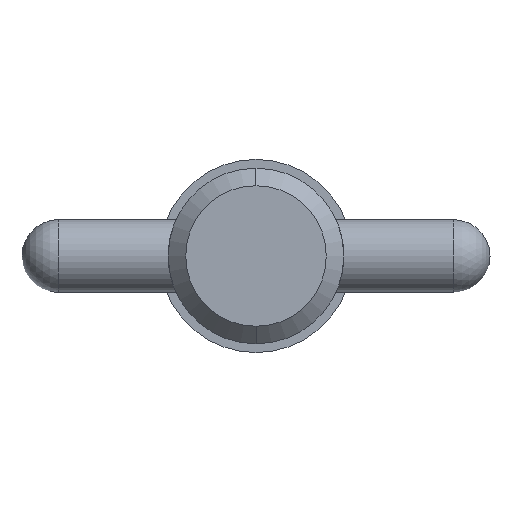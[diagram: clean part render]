
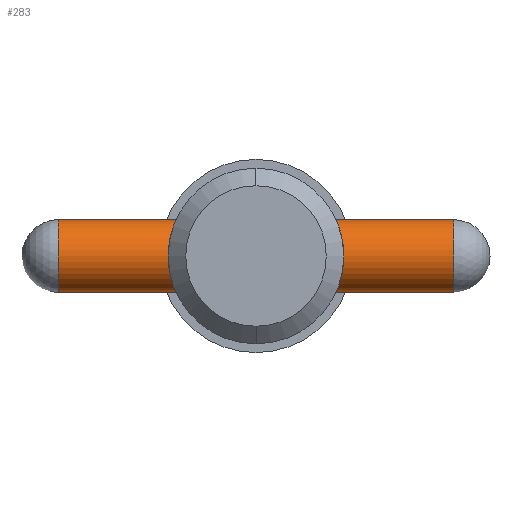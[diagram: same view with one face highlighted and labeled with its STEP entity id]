
A CAD part, left-side view. The second image highlights one B-rep face of the part: STEP entity #283.
In plain terms, the highlighted cylindrical face has radius 1.98 mm (diameter 3.96 mm), a partial arc.
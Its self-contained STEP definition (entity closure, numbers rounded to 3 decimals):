
#5 = DIRECTION ( 'NONE',  ( 0., 0., -1. ) ) ;
#72 = CYLINDRICAL_SURFACE ( 'NONE', #187, 1.98 ) ;
#74 = VERTEX_POINT ( 'NONE', #689 ) ;
#103 = ORIENTED_EDGE ( 'NONE', *, *, #948, .T. ) ;
#149 = VERTEX_POINT ( 'NONE', #772 ) ;
#157 = VERTEX_POINT ( 'NONE', #359 ) ;
#187 = AXIS2_PLACEMENT_3D ( 'NONE', #547, #469, #636 ) ;
#228 = CIRCLE ( 'NONE', #716, 1.98 ) ;
#235 = EDGE_CURVE ( 'NONE', #149, #74, #596, .T. ) ;
#258 = ORIENTED_EDGE ( 'NONE', *, *, #235, .T. ) ;
#269 = LINE ( 'NONE', #997, #849 ) ;
#283 = ADVANCED_FACE ( 'NONE', ( #870 ), #72, .T. ) ;
#285 = DIRECTION ( 'NONE',  ( 0., 1., 0. ) ) ;
#302 = CARTESIAN_POINT ( 'NONE',  ( 0., 12.7, -1.98 ) ) ;
#347 = DIRECTION ( 'NONE',  ( 0., -1., 0. ) ) ;
#355 = CIRCLE ( 'NONE', #642, 1.98 ) ;
#359 = CARTESIAN_POINT ( 'NONE',  ( 0., 10.72, 1.98 ) ) ;
#386 = VECTOR ( 'NONE', #941, 1000. ) ;
#469 = DIRECTION ( 'NONE',  ( 0., -1., 0. ) ) ;
#527 = VERTEX_POINT ( 'NONE', #999 ) ;
#547 = CARTESIAN_POINT ( 'NONE',  ( 0., 12.7, 0. ) ) ;
#582 = ORIENTED_EDGE ( 'NONE', *, *, #964, .F. ) ;
#596 = LINE ( 'NONE', #302, #386 ) ;
#605 = DIRECTION ( 'NONE',  ( 0., 0., -1. ) ) ;
#636 = DIRECTION ( 'NONE',  ( 0., 0., -1. ) ) ;
#641 = EDGE_CURVE ( 'NONE', #74, #527, #355, .T. ) ;
#642 = AXIS2_PLACEMENT_3D ( 'NONE', #828, #285, #605 ) ;
#662 = ORIENTED_EDGE ( 'NONE', *, *, #641, .T. ) ;
#689 = CARTESIAN_POINT ( 'NONE',  ( 0., -10.72, -1.98 ) ) ;
#716 = AXIS2_PLACEMENT_3D ( 'NONE', #822, #887, #5 ) ;
#772 = CARTESIAN_POINT ( 'NONE',  ( 0., 10.72, -1.98 ) ) ;
#822 = CARTESIAN_POINT ( 'NONE',  ( 0., 10.72, 0. ) ) ;
#828 = CARTESIAN_POINT ( 'NONE',  ( 0., -10.72, 0. ) ) ;
#849 = VECTOR ( 'NONE', #347, 1000. ) ;
#870 = FACE_OUTER_BOUND ( 'NONE', #952, .T. ) ;
#887 = DIRECTION ( 'NONE',  ( 0., -1., 0. ) ) ;
#941 = DIRECTION ( 'NONE',  ( 0., -1., 0. ) ) ;
#948 = EDGE_CURVE ( 'NONE', #157, #149, #228, .T. ) ;
#952 = EDGE_LOOP ( 'NONE', ( #582, #103, #258, #662 ) ) ;
#964 = EDGE_CURVE ( 'NONE', #157, #527, #269, .T. ) ;
#997 = CARTESIAN_POINT ( 'NONE',  ( 0., 12.7, 1.98 ) ) ;
#999 = CARTESIAN_POINT ( 'NONE',  ( 0., -10.72, 1.98 ) ) ;
